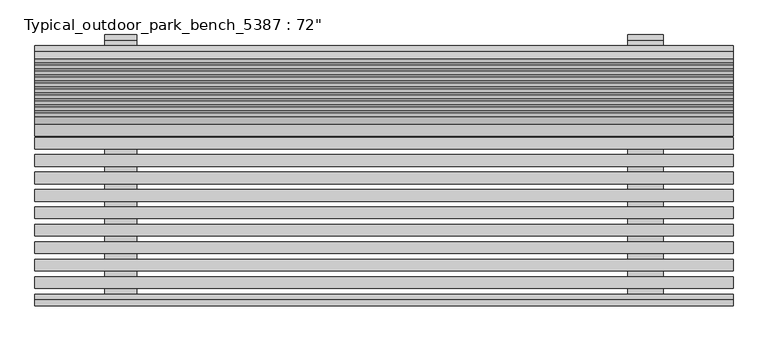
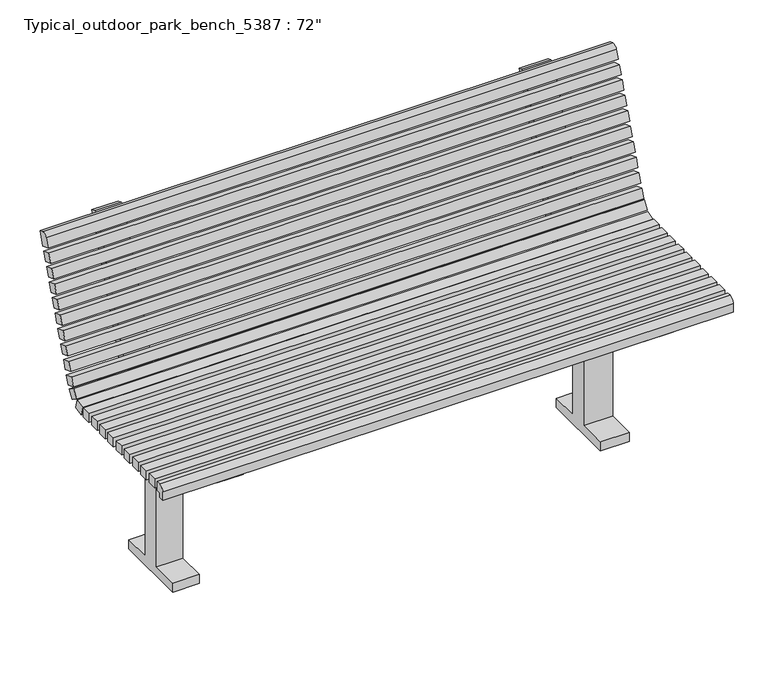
"""IFC4 building model written with IfcOpenShell, lengths in millimetres: geographic element geometry."""

from ifc_helpers import new_model, si_unit, point, frame, frame_2d, origin, place, context, project, spatial, polyline, circle_curve, trimmed, segment, composite_curve, outline, extrude, source, transform, mapped, element, save


def geographic_element_864e469f(model_context):
    return source(origin(), model_context, "Body", "SweptSolid", [
        extrude(outline(polyline([(914.4, -255.4337104), (914.4, -280.8337104), (-609.6, -280.8337104), (-609.6, -255.4337104), (914.4, -255.4337104)])), frame((0.0, 0.0, 457.2), z_axis=(0.0, 0.0, 1.0), x_axis=(1.0, 0.0, 0.0)), (0.0, 0.0, 1.0), 25.4),
        extrude(outline(polyline([(914.4, -217.3337104), (914.4, -242.7337104), (-609.6, -242.7337104), (-609.6, -217.3337104), (914.4, -217.3337104)])), frame((0.0, 0.0, 457.2), z_axis=(0.0, 0.0, 1.0), x_axis=(1.0, 0.0, 0.0)), (0.0, 0.0, 1.0), 25.4),
        extrude(outline(polyline([(914.4, -179.2337104), (914.4, -204.6337104), (-609.6, -204.6337104), (-609.6, -179.2337104), (914.4, -179.2337104)])), frame((0.0, 0.0, 457.2), z_axis=(0.0, 0.0, 1.0), x_axis=(1.0, 0.0, 0.0)), (0.0, 0.0, 1.0), 25.4),
        extrude(outline(polyline([(914.4, -141.1337104), (914.4, -166.5337104), (-609.6, -166.5337104), (-609.6, -141.1337104), (914.4, -141.1337104)])), frame((0.0, 0.0, 457.2), z_axis=(0.0, 0.0, 1.0), x_axis=(1.0, 0.0, 0.0)), (0.0, 0.0, 1.0), 25.4),
        extrude(outline(polyline([(914.4, -103.0337104), (914.4, -128.4337104), (-609.6, -128.4337104), (-609.6, -103.0337104), (914.4, -103.0337104)])), frame((0.0, 0.0, 457.2), z_axis=(0.0, 0.0, 1.0), x_axis=(1.0, 0.0, 0.0)), (0.0, 0.0, 1.0), 25.4),
        extrude(outline(polyline([(914.4, -64.9337104), (914.4, -90.3337104), (-609.6, -90.3337104), (-609.6, -64.9337104), (914.4, -64.9337104)])), frame((0.0, 0.0, 457.2), z_axis=(0.0, 0.0, 1.0), x_axis=(1.0, 0.0, 0.0)), (0.0, 0.0, 1.0), 25.4),
        extrude(outline(polyline([(914.4, -26.8337104), (914.4, -52.2337104), (-609.6, -52.2337104), (-609.6, -26.8337104), (914.4, -26.8337104)])), frame((0.0, 0.0, 457.2), z_axis=(0.0, 0.0, 1.0), x_axis=(1.0, 0.0, 0.0)), (0.0, 0.0, 1.0), 25.4),
        extrude(outline(polyline([(914.4, 11.2662896), (914.4, -14.1337104), (-609.6, -14.1337104), (-609.6, 11.2662896), (914.4, 11.2662896)])), frame((0.0, 0.0, 457.2), z_axis=(0.0, 0.0, 1.0), x_axis=(1.0, 0.0, 0.0)), (0.0, 0.0, 1.0), 25.4),
        extrude(outline(polyline([(914.4, 49.3662896), (914.4, 23.9662896), (-609.6, 23.9662896), (-609.6, 49.3662896), (914.4, 49.3662896)])), frame((0.0, 0.0, 457.2), z_axis=(0.0, 0.0, 1.0), x_axis=(1.0, 0.0, 0.0)), (0.0, 0.0, 1.0), 25.4),
        extrude(outline(composite_curve([segment(polyline([(-304.8, 457.2), (-304.8, 444.5), (-318.9337104, 444.5), (-318.9337104, 468.3125)]), True, "CONTINUOUS"), segment(trimmed(circle_curve(frame_2d((-304.6462104, 468.3125)), 14.2875), [point((-318.9337104, 468.3125))], [point((-304.6462104, 482.6))], False, "CARTESIAN"), True, "CONTINUOUS"), segment(polyline([(-304.6462104, 482.6), (-293.5337104, 482.6), (-293.5337104, 457.2), (-304.8, 457.2)]), True, "CONTINUOUS")], self_intersect=False)), frame((-609.6, 0.0, 0.0), z_axis=(1.0, 0.0, 0.0), x_axis=(0.0, 1.0, 0.0)), (0.0, 0.0, 1.0), 1524.0),
        extrude(outline(polyline([(0.0, -25.4), (0.0, 0.0), (1524.0, 0.0), (1524.0, -25.4), (0.0, -25.4)])), frame((914.4, 121.2738625, 585.5181247), z_axis=(0.0, 0.342020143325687, 0.9396926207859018), x_axis=(-1.0, 0.0, 0.0)), (0.0, 0.0, 1.0), 25.4),
        extrude(outline(polyline([(0.0, -25.4), (0.0, 0.0), (1524.0, 0.0), (1524.0, -25.4), (0.0, -25.4)])), frame((914.4, 134.30483, 621.3204136), z_axis=(0.0, 0.34202014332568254, 0.9396926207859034), x_axis=(-1.0, 0.0, 0.0)), (0.0, 0.0, 1.0), 25.4),
        extrude(outline(polyline([(0.0, -25.3999999), (0.0, 0.0), (1524.0, 0.0), (1524.0, -25.3999999), (0.0, -25.3999999)])), frame((914.4, 95.2119276, 513.913547), z_axis=(0.0, 0.34202014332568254, 0.9396926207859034), x_axis=(-1.0, 0.0, 0.0)), (0.0, 0.0, 1.0), 25.4),
        extrude(outline(polyline([(0.0, -25.4000001), (0.0, 0.0), (1524.0, 0.0), (1524.0, -25.4000001), (0.0, -25.4000001)])), frame((914.4, 108.242895, 549.7158359), z_axis=(0.0, 0.34202014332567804, 0.9396926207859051), x_axis=(-1.0, 0.0, 0.0)), (0.0, 0.0, 1.0), 25.4),
        extrude(outline(polyline([(0.0, -25.4), (0.0, 0.0), (1524.0, 0.0), (1524.0, -25.4), (0.0, -25.4)])), frame((914.4, 173.3977323, 728.7272801), z_axis=(0.0, 0.34202014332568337, 0.9396926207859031), x_axis=(-1.0, 0.0, 0.0)), (0.0, 0.0, 1.0), 25.4),
        extrude(outline(polyline([(0.0, -25.4000001), (0.0, 0.0), (1524.0, 0.0), (1524.0, -25.4000001), (0.0, -25.4000001)])), frame((914.4, 186.4286998, 764.529569), z_axis=(0.0, 0.3420201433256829, 0.9396926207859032), x_axis=(-1.0, 0.0, 0.0)), (0.0, 0.0, 1.0), 25.4),
        extrude(outline(polyline([(0.0, -25.4), (0.0, 0.0), (1524.0, 0.0), (1524.0, -25.4), (0.0, -25.4)])), frame((914.4, 147.3357974, 657.1227024), z_axis=(0.0, 0.3420201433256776, 0.9396926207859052), x_axis=(-1.0, 0.0, 0.0)), (0.0, 0.0, 1.0), 25.4),
        extrude(outline(polyline([(0.0, -25.4), (0.0, 0.0), (1524.0, 0.0), (1524.0, -25.4), (0.0, -25.4)])), frame((914.4, 160.3667649, 692.9249913), z_axis=(0.0, 0.34202014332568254, 0.9396926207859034), x_axis=(-1.0, 0.0, 0.0)), (0.0, 0.0, 1.0), 25.4),
        extrude(outline(polyline([(0.0, -25.3999999), (0.0, 0.0), (1524.0, 0.0), (1524.0, -25.3999999), (0.0, -25.3999999)])), frame((914.4, 199.4596673, 800.3318578), z_axis=(0.0, 0.3420201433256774, 0.9396926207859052), x_axis=(-1.0, 0.0, 0.0)), (0.0, 0.0, 1.0), 25.4),
        extrude(outline(composite_curve([segment(polyline([(249.3897948, 863.2491239), (236.3588273, 827.4468351), (212.4906347, 836.1341467), (221.1779464, 860.0023393)]), True, "CONTINUOUS"), segment(trimmed(circle_curve(frame_2d((233.1120426, 855.6586834)), 12.7), [point((221.1779464, 860.0023393))], [point((237.4556985, 867.5927797))], False, "CARTESIAN"), True, "CONTINUOUS"), segment(polyline([(237.4556985, 867.5927797), (249.3897948, 863.2491239)]), True, "CONTINUOUS")], self_intersect=False)), frame((-609.6, 0.0, 0.0), z_axis=(1.0, 0.0, 0.0), x_axis=(0.0, 1.0, 0.0)), (0.0, 0.0, 1.0), 1524.0),
        extrude(outline(polyline([(0.0, -25.4), (0.0, 0.0), (1524.0, 0.0), (1524.0, -25.4), (0.0, -25.4)])), frame((914.4, 78.7855779, 490.7267336), z_axis=(0.0, 0.5735764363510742, 0.8191520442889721), x_axis=(-1.0, 0.0, 0.0)), (0.0, 0.0, 1.0), 25.4),
        extrude(outline(polyline([(0.0, -25.4), (0.0, 0.0), (1524.0, 0.0), (1524.0, -25.4), (0.0, -25.4)])), frame((914.4, 59.0817015, 457.2297909), z_axis=(0.0, -0.2588190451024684, 0.9659258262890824), x_axis=(-1.0, 0.0, 0.0)), (0.0, 0.0, 1.0), 25.4),
        extrude(outline(composite_curve([segment(polyline([(-101.6, 25.4), (-25.4, 25.4), (-25.4, 431.8), (-304.8, 431.8), (-304.8, 457.2), (57.1368213, 457.2)]), True, "CONTINUOUS"), segment(trimmed(circle_curve(frame_2d((57.1368213, 520.7)), 63.5), [point((57.1368213, 457.2))], [point((116.8073027, 498.9817209))], True, "CARTESIAN"), True, "CONTINUOUS"), segment(polyline([(116.8073027, 498.9817209), (244.9406421, 851.0251774)]), True, "CONTINUOUS"), segment(trimmed(circle_curve(frame_2d((256.8747384, 846.6815216)), 12.7), [point((244.9406421, 851.0251774))], [point((261.2183942, 858.6156178))], False, "CARTESIAN"), True, "CONTINUOUS"), segment(polyline([(261.2183942, 858.6156178), (273.1524905, 854.271962), (140.6754953, 490.2944093)]), True, "CONTINUOUS"), segment(trimmed(circle_curve(frame_2d((57.1368213, 520.7)), 88.9), [point((140.6754953, 490.2944093))], [point((57.1368213, 431.8))], False, "CARTESIAN"), True, "CONTINUOUS"), segment(polyline([(57.1368213, 431.8), (25.4, 431.8), (25.4, 25.4), (101.6, 25.4), (101.6, 0.0), (-101.6, 0.0), (-101.6, 25.4)]), True, "CONTINUOUS")], self_intersect=False)), frame((684.9082573, 0.0, 0.0), z_axis=(1.0, 0.0, 0.0), x_axis=(0.0, 1.0, 0.0)), (0.0, 0.0, 1.0), 77.0917427),
        extrude(outline(composite_curve([segment(polyline([(-101.4462104, 25.4), (-25.2462104, 25.4), (-25.2462104, 431.8), (-304.6462104, 431.8), (-304.6462104, 457.2), (57.290611, 457.2)]), True, "CONTINUOUS"), segment(trimmed(circle_curve(frame_2d((57.290611, 520.7)), 63.5), [point((57.290611, 457.2))], [point((116.9610924, 498.9817209))], True, "CARTESIAN"), True, "CONTINUOUS"), segment(polyline([(116.9610924, 498.9817209), (245.0944317, 851.0251774)]), True, "CONTINUOUS"), segment(trimmed(circle_curve(frame_2d((257.028528, 846.6815216)), 12.7), [point((245.0944317, 851.0251774))], [point((261.3721838, 858.6156178))], False, "CARTESIAN"), True, "CONTINUOUS"), segment(polyline([(261.3721838, 858.6156178), (273.3062801, 854.271962), (140.8292849, 490.2944093)]), True, "CONTINUOUS"), segment(trimmed(circle_curve(frame_2d((57.290611, 520.7)), 88.9), [point((140.8292849, 490.2944093))], [point((57.290611, 431.8))], False, "CARTESIAN"), True, "CONTINUOUS"), segment(polyline([(57.290611, 431.8), (25.5537896, 431.8), (25.5537896, 25.4), (101.7537896, 25.4), (101.7537896, 0.0), (-101.4462104, 0.0), (-101.4462104, 25.4)]), True, "CONTINUOUS")], self_intersect=False)), frame((-457.2, 0.0, 0.0), z_axis=(1.0, 0.0, 0.0), x_axis=(0.0, 1.0, 0.0)), (0.0, 0.0, 1.0), 70.1132232),
    ])


if __name__ == "__main__":
    model = new_model("IFC4")
    model_context = context("Model", 3, world=origin())
    ifc_project = project(units=[si_unit("LENGTHUNIT", "METRE", prefix="MILLI")], contexts=[model_context])
    site = spatial("IfcSite", under=ifc_project)
    building = spatial("IfcBuilding", under=site)
    placement = place(None, origin())
    geographic_element_shape = geographic_element_864e469f(model_context)
    element("IfcGeographicElement", 1, ObjectType="Typical_outdoor_park_bench_5387 : 72\"", at=placement, inside=building, context=model_context, shape_type="MappedRepresentation", body=[
        mapped(geographic_element_shape, transform((0.0, 0.0, 0.0), x_axis=(1.0, 0.0, 0.0), y_axis=(0.0, 1.0, 0.0), z_axis=(0.0, 0.0, 1.0))),
    ])
    save(model, "model.ifc")
